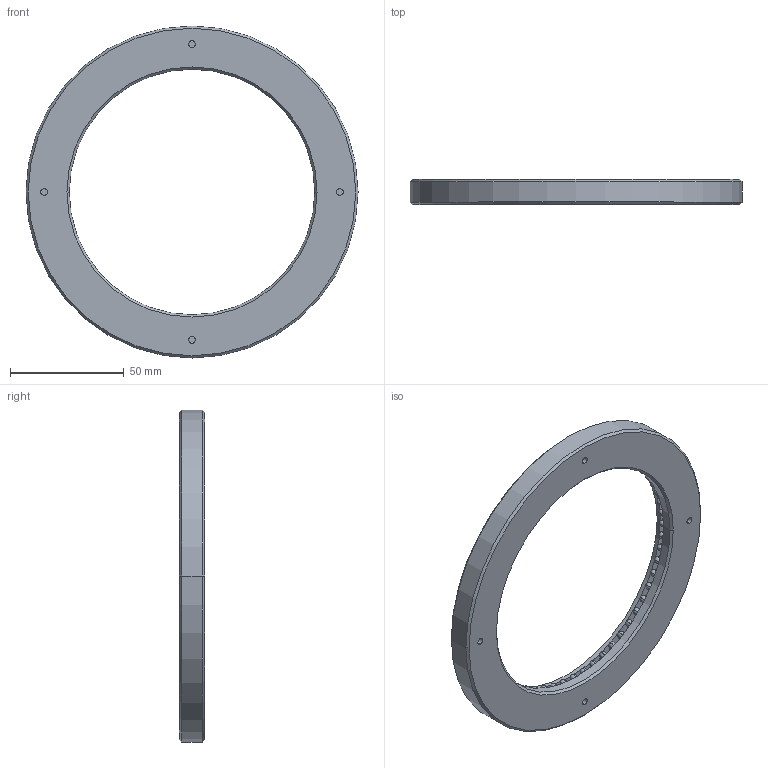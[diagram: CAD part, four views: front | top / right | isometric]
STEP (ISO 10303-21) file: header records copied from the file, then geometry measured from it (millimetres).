
FILE_DESCRIPTION((''),'2;1');
FILE_NAME('DRL-110-90_ASM','2020-03-28T',('ASUS'),(''),'PRO/ENGINEER BY PARAMETRIC TECHNOLOGY CORPORATION, 2008380','PRO/ENGINEER BY PARAMETRIC TECHNOLOGY CORPORATION, 2008380','');
FILE_SCHEMA(('CONFIG_CONTROL_DESIGN'));
Length unit declared in the file: millimetre
Products named in the file (3): DRL-110-90; 5__; DRL-110-90_ASM
Assembly tree (57 placements, depth 2):
  DRL-110-90_ASM
    DRL-110-90
    5__  x56
Bounding box: 146 x 11 x 146 mm (x, y, z)
Volume: 74730.1 mm3; surface area: 30307.8 mm2
Topology: 57 solids, 57 shells, 478 faces, 956 edges, 542 vertices
Faces by surface type: cylinder 240, plane 120, sphere 112, cone 6
Entity records: 1522 total; most frequent: DIRECTION 318, CARTESIAN_POINT 219, ORIENTED_EDGE 148, AXIS2_PLACEMENT_3D 146, EDGE_CURVE 74, PRODUCT_DEFINITION_SHAPE 60, ITEM_DEFINED_TRANSFORMATION 57, CONTEXT_DEPENDENT_SHAPE_REPRESENTATION 57
